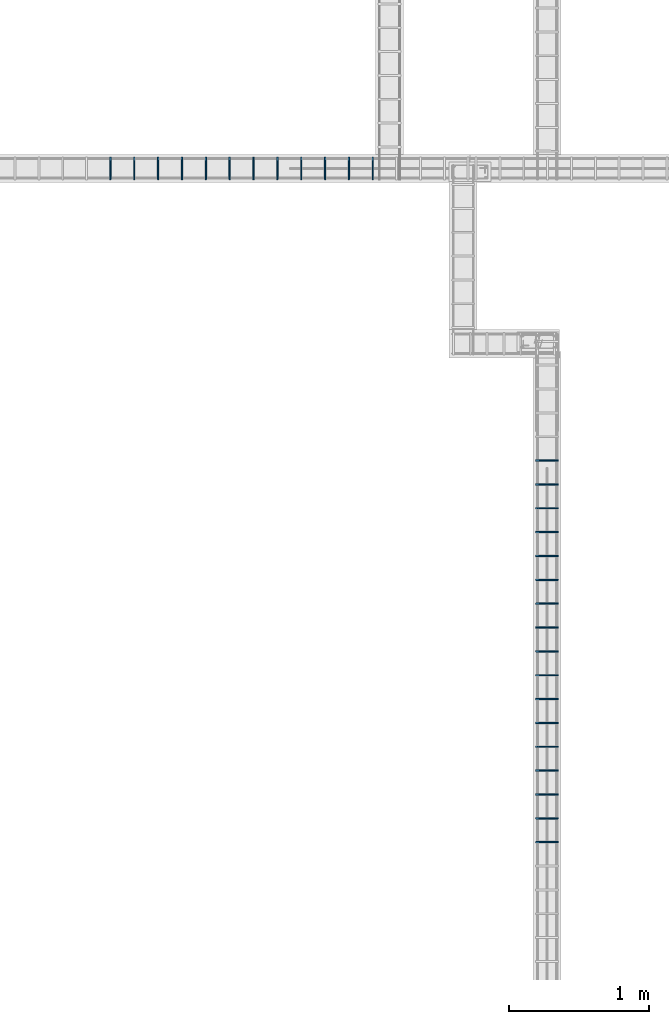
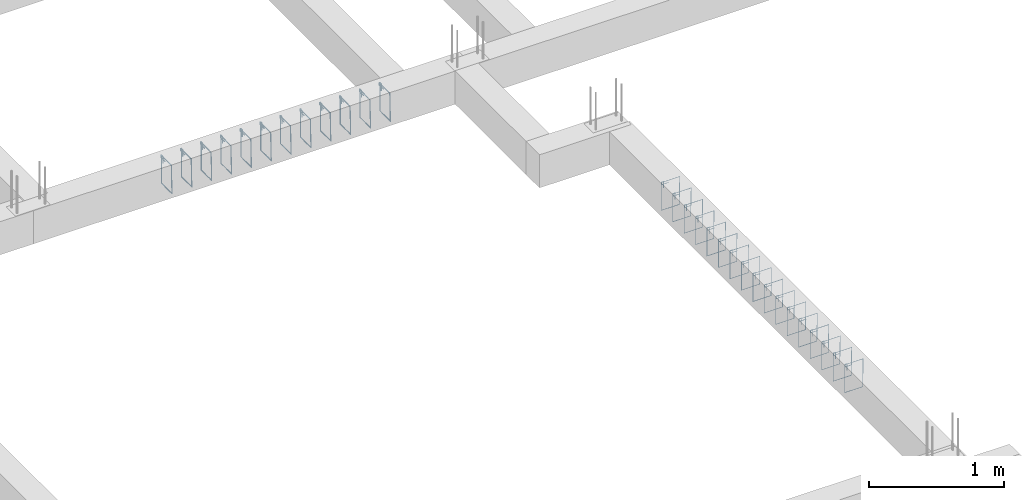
# One storey, part 71 of 150: 29 reinforcing bars.
"""IFC4 building model written with IfcOpenShell, lengths in centimetres."""

from ifc_helpers import new_model, entity, si_unit, derived_unit, frame, origin_with_axes, place, context, project, spatial, source, transform, mapped, element, save


model = new_model("IFC4")

# Units and contexts
model_context = context("Model", 3, precision=1e-05, world=origin_with_axes(), identifier="Body")
ifc_project = project(units=[si_unit("LENGTHUNIT", "METRE", prefix="CENTI"), si_unit("VOLUMEUNIT", "CUBIC_METRE"), si_unit("AREAUNIT", "SQUARE_METRE"), si_unit("POWERUNIT", "WATT"), si_unit("LUMINOUSFLUXUNIT", "LUMEN"), si_unit("ELECTRICCURRENTUNIT", "AMPERE"), si_unit("PRESSUREUNIT", "PASCAL", prefix="KILO"), si_unit("MASSUNIT", "GRAM", prefix="KILO"), si_unit("PLANEANGLEUNIT", "RADIAN"), derived_unit("VOLUMETRICFLOWRATEUNIT", [(si_unit("LENGTHUNIT", "METRE"), 3), (si_unit("TIMEUNIT", "SECOND"), -1)])], contexts=[model_context])

# Site, building, storey
site_placement = place(None, frame((-4000.0, 0.0, 0.0), z_axis=(0.0, 0.0, 1.0), x_axis=(1.0, 0.0, 0.0)))
site = spatial("IfcSite", under=ifc_project, at=site_placement, Name="PADRÃO")
building_placement = place(site_placement, frame((0.0, 0.0, -14.0)))
building = spatial("IfcBuilding", under=site, at=building_placement, Name="CRECHE PRÉ-ESCOLA TIPO 2")
placement = place(building_placement, origin_with_axes())
storey_placement = place(placement, frame((0.0, 0.0, 30.0), z_axis=(0.0, 0.0, 1.0), x_axis=(1.0, 0.0, 0.0)))
storey = spatial("IfcBuildingStorey", under=building, at=storey_placement, Name="VIGA BALDRAME", CompositionType="ELEMENT", Elevation=16.0)

# Reinforcing bars
shared_shape_1 = source(origin_with_axes(), model_context, "Body", "AdvancedSweptSolid", [
    entity("IfcSweptDiskSolid", entity("IfcCompositeCurve", [entity("IfcCompositeCurveSegment", "CONTINUOUS", True, entity("IfcPolyline", [entity("IfcCartesianPoint", [2.0, -6.0, 0.0]), entity("IfcCartesianPoint", [2.0, 0.0, 0.0])])), entity("IfcCompositeCurveSegment", "CONTINUOUS", True, entity("IfcPolyline", [entity("IfcCartesianPoint", [2.0, 0.0, 0.0]), entity("IfcCartesianPoint", [0.0, 0.0, 0.0])])), entity("IfcCompositeCurveSegment", "CONTINUOUS", True, entity("IfcPolyline", [entity("IfcCartesianPoint", [0.0, 0.0, 0.0]), entity("IfcCartesianPoint", [0.0, -25.5, 0.0])])), entity("IfcCompositeCurveSegment", "CONTINUOUS", True, entity("IfcPolyline", [entity("IfcCartesianPoint", [0.0, -25.5, 0.0]), entity("IfcCartesianPoint", [15.5, -25.5, 0.0])])), entity("IfcCompositeCurveSegment", "CONTINUOUS", True, entity("IfcPolyline", [entity("IfcCartesianPoint", [15.5, -25.5, 0.0]), entity("IfcCartesianPoint", [15.5, 0.0, 0.5])])), entity("IfcCompositeCurveSegment", "CONTINUOUS", True, entity("IfcPolyline", [entity("IfcCartesianPoint", [15.5, 0.0, 0.5]), entity("IfcCartesianPoint", [0.0, 0.0, 0.5])])), entity("IfcCompositeCurveSegment", "CONTINUOUS", True, entity("IfcPolyline", [entity("IfcCartesianPoint", [0.0, 0.0, 0.5]), entity("IfcCartesianPoint", [0.0, -2.0, 0.5])])), entity("IfcCompositeCurveSegment", "CONTINUOUS", True, entity("IfcPolyline", [entity("IfcCartesianPoint", [0.0, -2.0, 0.5]), entity("IfcCartesianPoint", [6.0, -2.0, 0.5])]))], False), 0.25),
])
for number, where, z_axis, x_axis, name in (
    (1, (941.0, 3207.77, -2.25), (-1.0, 0.0, 0.0), (0.0, -1.0, 0.0), "V113 - Estribo"),
    (2, (924.0, 3207.77, -2.25), (-1.0, 0.0, 0.0), (0.0, -1.0, 0.0), "V113 - Estribo"),
    (3, (907.0, 3207.77, -2.25), (-1.0, 0.0, 0.0), (0.0, -1.0, 0.0), "V113 - Estribo"),
    (4, (890.0, 3207.77, -2.25), (-1.0, 0.0, 0.0), (0.0, -1.0, 0.0), "V113 - Estribo"),
    (5, (873.0, 3207.77, -2.25), (-1.0, 0.0, 0.0), (0.0, -1.0, 0.0), "V113 - Estribo"),
    (6, (856.0, 3207.77, -2.25), (-1.0, 0.0, 0.0), (0.0, -1.0, 0.0), "V113 - Estribo"),
    (7, (839.0, 3207.77, -2.25), (-1.0, 0.0, 0.0), (0.0, -1.0, 0.0), "V113 - Estribo"),
    (8, (822.0, 3207.77, -2.25), (-1.0, 0.0, 0.0), (0.0, -1.0, 0.0), "V113 - Estribo"),
    (9, (805.0, 3207.77, -2.25), (-1.0, 0.0, 0.0), (0.0, -1.0, 0.0), "V113 - Estribo"),
    (10, (958.0, 3207.77, -2.25), (-1.0, 0.0, 0.0), (0.0, -1.0, 0.0), "V113 - Estribo"),
    (11, (975.0, 3207.77, -2.25), (-1.0, 0.0, 0.0), (0.0, -1.0, 0.0), "V113 - Estribo"),
    (12, (992.0, 3207.77, -2.25), (-1.0, 0.0, 0.0), (0.0, -1.0, 0.0), "V113 - Estribo"),
):
    element("IfcReinforcingBar", number, at=place(storey_placement, frame(where, z_axis=z_axis, x_axis=x_axis)), inside=storey, Name=name, BarLength=0.0, CrossSectionArea=1.9634954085e-05, NominalDiameter=0.5, PredefinedType="MAIN", context=model_context, shape_type="MappedRepresentation", body=[
        mapped(shared_shape_1, transform((0.0, 0.0, 0.0), scale=1.0)),
    ])
shared_shape_2 = source(origin_with_axes(), model_context, "Body", "AdvancedSweptSolid", [
    entity("IfcSweptDiskSolid", entity("IfcCompositeCurve", [entity("IfcCompositeCurveSegment", "CONTINUOUS", True, entity("IfcPolyline", [entity("IfcCartesianPoint", [2.0, -6.0, 0.0]), entity("IfcCartesianPoint", [2.0, 0.0, 0.0])])), entity("IfcCompositeCurveSegment", "CONTINUOUS", True, entity("IfcPolyline", [entity("IfcCartesianPoint", [2.0, 0.0, 0.0]), entity("IfcCartesianPoint", [0.0, 0.0, 0.0])])), entity("IfcCompositeCurveSegment", "CONTINUOUS", True, entity("IfcPolyline", [entity("IfcCartesianPoint", [0.0, 0.0, 0.0]), entity("IfcCartesianPoint", [0.0, -25.5, 0.0])])), entity("IfcCompositeCurveSegment", "CONTINUOUS", True, entity("IfcPolyline", [entity("IfcCartesianPoint", [0.0, -25.5, 0.0]), entity("IfcCartesianPoint", [15.5, -25.5, 0.0])])), entity("IfcCompositeCurveSegment", "CONTINUOUS", True, entity("IfcPolyline", [entity("IfcCartesianPoint", [15.5, -25.5, 0.0]), entity("IfcCartesianPoint", [15.5, 0.0, 0.5])])), entity("IfcCompositeCurveSegment", "CONTINUOUS", True, entity("IfcPolyline", [entity("IfcCartesianPoint", [15.5, 0.0, 0.5]), entity("IfcCartesianPoint", [0.0, 0.0, 0.5])])), entity("IfcCompositeCurveSegment", "CONTINUOUS", True, entity("IfcPolyline", [entity("IfcCartesianPoint", [0.0, 0.0, 0.5]), entity("IfcCartesianPoint", [0.0, -2.0, 0.5])])), entity("IfcCompositeCurveSegment", "CONTINUOUS", True, entity("IfcPolyline", [entity("IfcCartesianPoint", [0.0, -2.0, 0.5]), entity("IfcCartesianPoint", [6.0, -2.0, 0.5])]))], False), 0.25),
])
for number, where, z_axis, x_axis, name in (
    (13, (1108.25, 2907.0, -2.25), (0.0, -1.0, 0.0), (1.0, 0.0, 0.0), "V183 - Estribo"),
    (14, (1108.25, 2992.0, -2.25), (0.0, -1.0, 0.0), (1.0, 0.0, 0.0), "V183 - Estribo"),
    (15, (1108.25, 2975.0, -2.25), (0.0, -1.0, 0.0), (1.0, 0.0, 0.0), "V183 - Estribo"),
    (16, (1108.25, 2958.0, -2.25), (0.0, -1.0, 0.0), (1.0, 0.0, 0.0), "V183 - Estribo"),
    (17, (1108.25, 2941.0, -2.25), (0.0, -1.0, 0.0), (1.0, 0.0, 0.0), "V183 - Estribo"),
    (18, (1108.25, 2924.0, -2.25), (0.0, -1.0, 0.0), (1.0, 0.0, 0.0), "V183 - Estribo"),
    (19, (1108.25, 2890.0, -2.25), (0.0, -1.0, 0.0), (1.0, 0.0, 0.0), "V183 - Estribo"),
    (20, (1108.25, 2873.0, -2.25), (0.0, -1.0, 0.0), (1.0, 0.0, 0.0), "V183 - Estribo"),
    (21, (1108.25, 2856.0, -2.25), (0.0, -1.0, 0.0), (1.0, 0.0, 0.0), "V183 - Estribo"),
    (22, (1108.25, 2839.0, -2.25), (0.0, -1.0, 0.0), (1.0, 0.0, 0.0), "V183 - Estribo"),
    (23, (1108.25, 2822.0, -2.25), (0.0, -1.0, 0.0), (1.0, 0.0, 0.0), "V183 - Estribo"),
    (24, (1108.25, 2805.0, -2.25), (0.0, -1.0, 0.0), (1.0, 0.0, 0.0), "V183 - Estribo"),
    (25, (1108.25, 2788.0, -2.25), (0.0, -1.0, 0.0), (1.0, 0.0, 0.0), "V183 - Estribo"),
    (26, (1108.25, 2771.0, -2.25), (0.0, -1.0, 0.0), (1.0, 0.0, 0.0), "V183 - Estribo"),
    (27, (1108.25, 2754.0, -2.25), (0.0, -1.0, 0.0), (1.0, 0.0, 0.0), "V183 - Estribo"),
    (28, (1108.25, 2737.0, -2.25), (0.0, -1.0, 0.0), (1.0, 0.0, 0.0), "V183 - Estribo"),
    (29, (1108.25, 2720.0, -2.25), (0.0, -1.0, 0.0), (1.0, 0.0, 0.0), "V183 - Estribo"),
):
    element("IfcReinforcingBar", number, at=place(storey_placement, frame(where, z_axis=z_axis, x_axis=x_axis)), inside=storey, Name=name, BarLength=0.0, CrossSectionArea=1.9634954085e-05, NominalDiameter=0.5, PredefinedType="MAIN", context=model_context, shape_type="MappedRepresentation", body=[
        mapped(shared_shape_2, transform((0.0, 0.0, 0.0), scale=1.0)),
    ])

save(model, "model.ifc")
